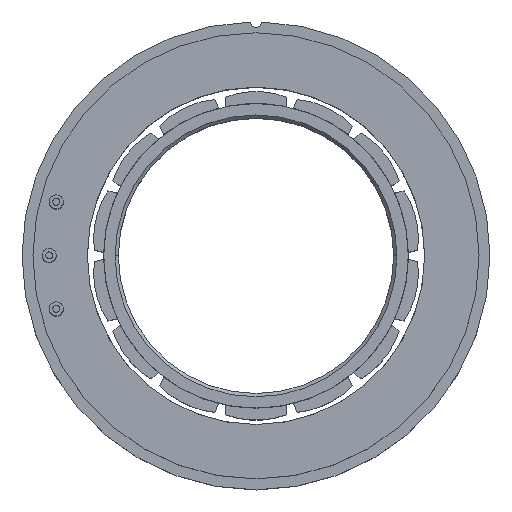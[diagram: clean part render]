
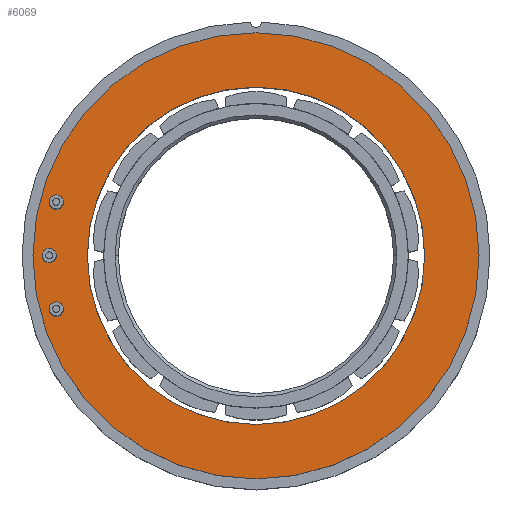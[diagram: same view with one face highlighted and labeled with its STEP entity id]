
A CAD part, top view. The second image highlights one B-rep face of the part: STEP entity #6069.
In plain terms, the highlighted planar face has unit normal (0, 0, 1).
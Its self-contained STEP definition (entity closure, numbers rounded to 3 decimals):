
#278 = CARTESIAN_POINT ( 'NONE',  ( -20.5, 0., 15.2 ) ) ;
#294 = DIRECTION ( 'NONE',  ( 1., 0., 0. ) ) ;
#443 = EDGE_CURVE ( 'NONE', #2416, #6371, #1376, .T. ) ;
#618 = CARTESIAN_POINT ( 'NONE',  ( 0., 0., 15.2 ) ) ;
#619 = ORIENTED_EDGE ( 'NONE', *, *, #3447, .T. ) ;
#774 = DIRECTION ( 'NONE',  ( 1., 0., 0. ) ) ;
#832 = VERTEX_POINT ( 'NONE', #1807 ) ;
#1234 = DIRECTION ( 'NONE',  ( 0., 0., 1. ) ) ;
#1278 = CARTESIAN_POINT ( 'NONE',  ( 0., 0., 15.2 ) ) ;
#1339 = FACE_OUTER_BOUND ( 'NONE', #3192, .T. ) ;
#1372 = DIRECTION ( 'NONE',  ( 0., 0., 1. ) ) ;
#1376 = CIRCLE ( 'NONE', #2285, 20.5 ) ;
#1653 = DIRECTION ( 'NONE',  ( 0., 0., 1. ) ) ;
#1807 = CARTESIAN_POINT ( 'NONE',  ( 15.5, 0., 15.2 ) ) ;
#1811 = CARTESIAN_POINT ( 'NONE',  ( 0., 0., 15.2 ) ) ;
#2285 = AXIS2_PLACEMENT_3D ( 'NONE', #1278, #6205, #2439 ) ;
#2356 = CIRCLE ( 'NONE', #3033, 15.5 ) ;
#2416 = VERTEX_POINT ( 'NONE', #3349 ) ;
#2439 = DIRECTION ( 'NONE',  ( 1., 0., 0. ) ) ;
#3033 = AXIS2_PLACEMENT_3D ( 'NONE', #3781, #6591, #294 ) ;
#3179 = ORIENTED_EDGE ( 'NONE', *, *, #6778, .F. ) ;
#3192 = EDGE_LOOP ( 'NONE', ( #619, #3712 ) ) ;
#3244 = AXIS2_PLACEMENT_3D ( 'NONE', #618, #1653, #4906 ) ;
#3349 = CARTESIAN_POINT ( 'NONE',  ( 20.5, 0., 15.2 ) ) ;
#3447 = EDGE_CURVE ( 'NONE', #6371, #2416, #5449, .T. ) ;
#3460 = EDGE_LOOP ( 'NONE', ( #5127, #3179 ) ) ;
#3584 = VERTEX_POINT ( 'NONE', #6259 ) ;
#3712 = ORIENTED_EDGE ( 'NONE', *, *, #443, .T. ) ;
#3781 = CARTESIAN_POINT ( 'NONE',  ( 0., 0., 15.2 ) ) ;
#4064 = CARTESIAN_POINT ( 'NONE',  ( 0., 0., 15.2 ) ) ;
#4906 = DIRECTION ( 'NONE',  ( 1., 0., 0. ) ) ;
#5127 = ORIENTED_EDGE ( 'NONE', *, *, #5270, .F. ) ;
#5190 = DIRECTION ( 'NONE',  ( 1., 0., 0. ) ) ;
#5270 = EDGE_CURVE ( 'NONE', #3584, #832, #6260, .T. ) ;
#5449 = CIRCLE ( 'NONE', #5562, 20.5 ) ;
#5562 = AXIS2_PLACEMENT_3D ( 'NONE', #4064, #1372, #5190 ) ;
#5588 = FACE_BOUND ( 'NONE', #3460, .T. ) ;
#6069 = ADVANCED_FACE ( 'NONE', ( #1339, #5588 ), #6581, .T. ) ;
#6205 = DIRECTION ( 'NONE',  ( 0., 0., 1. ) ) ;
#6259 = CARTESIAN_POINT ( 'NONE',  ( -15.5, 0., 15.2 ) ) ;
#6260 = CIRCLE ( 'NONE', #3244, 15.5 ) ;
#6371 = VERTEX_POINT ( 'NONE', #278 ) ;
#6581 = PLANE ( 'NONE',  #6738 ) ;
#6591 = DIRECTION ( 'NONE',  ( 0., 0., 1. ) ) ;
#6738 = AXIS2_PLACEMENT_3D ( 'NONE', #1811, #1234, #774 ) ;
#6778 = EDGE_CURVE ( 'NONE', #832, #3584, #2356, .T. ) ;
